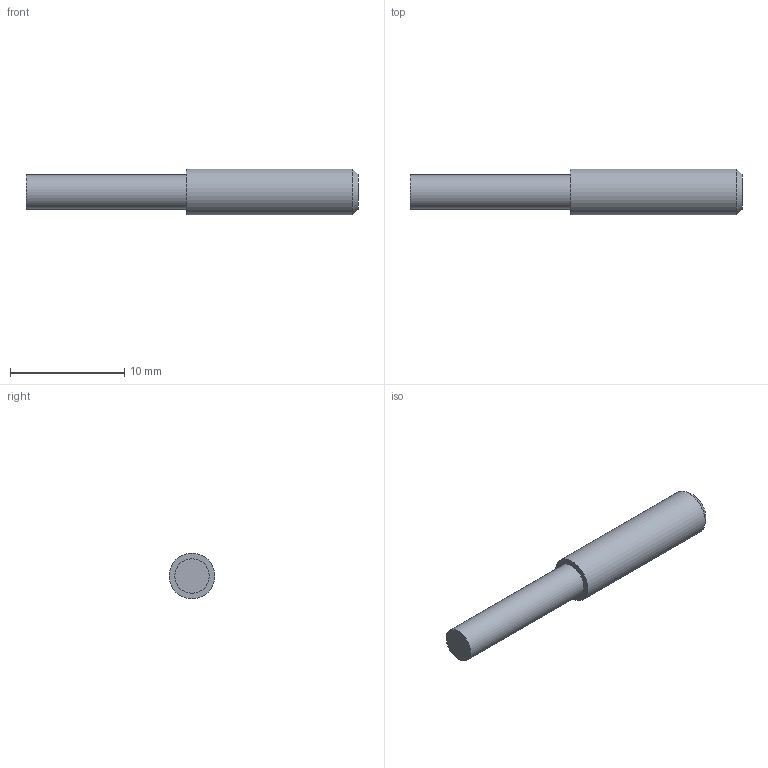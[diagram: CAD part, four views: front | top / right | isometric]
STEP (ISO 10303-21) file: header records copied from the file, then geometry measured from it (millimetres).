
FILE_DESCRIPTION(/* description */ ('STEP AP203'),/* implementation_level */ '2;1');
FILE_NAME(/* name */ 'P_MZ_FO_0080',/* time_stamp */ '2023-03-02T11:32:28+01:00',/* author */ ('License CC BY-ND 4.0'),/* organization */ ('CADENAS'),/* preprocessor_version */ 'ST-DEVELOPER v18.102',/* originating_system */ 'PARTsolutions',/* authorisation */ ' ');
FILE_SCHEMA (('CONFIG_CONTROL_DESIGN'));
Length unit declared in the file: millimetre
Products named in the file (1): P_MZ_FO_0080
Bounding box: 29 x 4 x 4 mm (x, y, z)
Volume: 286.2 mm3; surface area: 341.9 mm2
Topology: 1 solids, 1 shells, 6 faces, 8 edges, 5 vertices
Faces by surface type: plane 3, cylinder 2, cone 1
Full cylindrical faces by diameter (mm): 3 x1, 4 x1
Entity records: 180 total; most frequent: DIRECTION 24, CARTESIAN_POINT 17, AXIS2_PLACEMENT_3D 12, ORIENTED_EDGE 10, EDGE_LOOP 10, FACE_BOUND 10, STYLED_ITEM 6, PRESENTATION_STYLE_ASSIGNMENT 6
